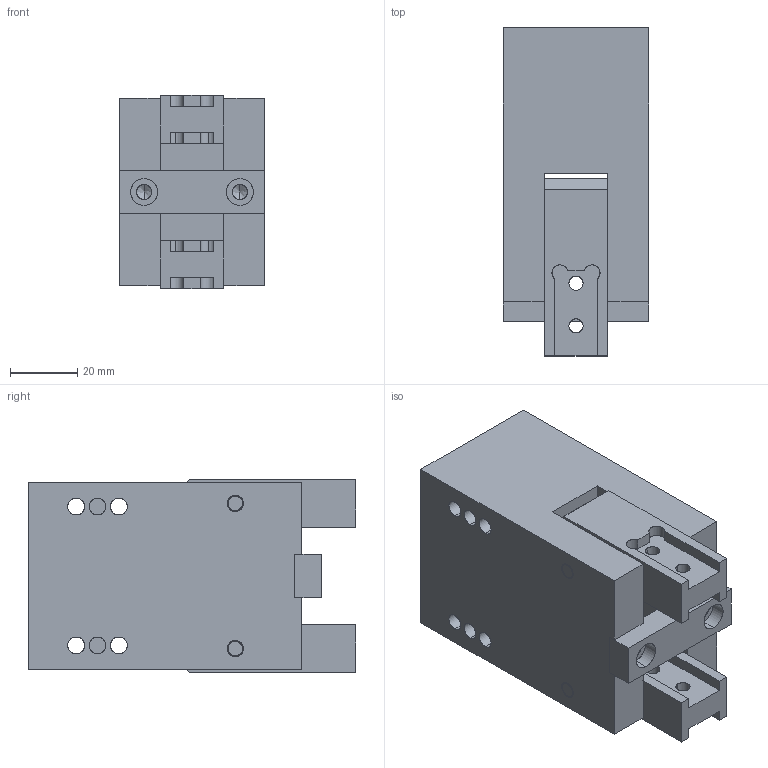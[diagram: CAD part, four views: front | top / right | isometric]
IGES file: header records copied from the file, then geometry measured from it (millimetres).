
Start section: SolidWorks IGES file using analytic representation for surfaces
Global section: file name: C:\Users\jmkuhnes\Pictures\AGA\AGA-30\AGA-30 CLOSED in IN.IGS; native system: SolidWorks 2013; preprocessor: SolidWorks 2013; author: jmkuhnes; date: 141103.143143; units: inch
Bounding box: 43.18 x 97.49 x 57.4 mm (x, y, z)
Surface area: 43403.6 mm2 (no closed solid volume)
Topology: 0 solids, 0 shells, 211 faces, 3446 edges, 3430 vertices
Faces by surface type: revolution 131, bspline 80
